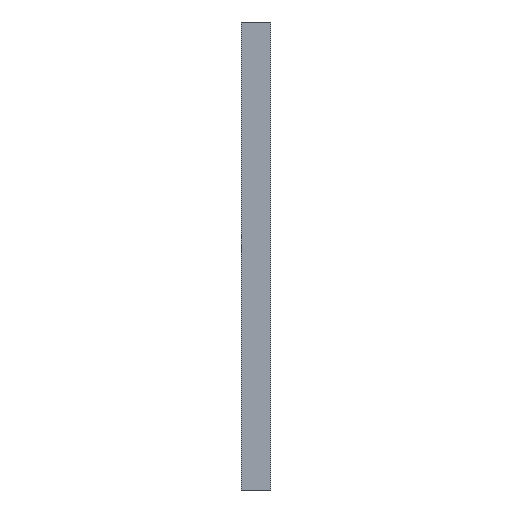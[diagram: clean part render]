
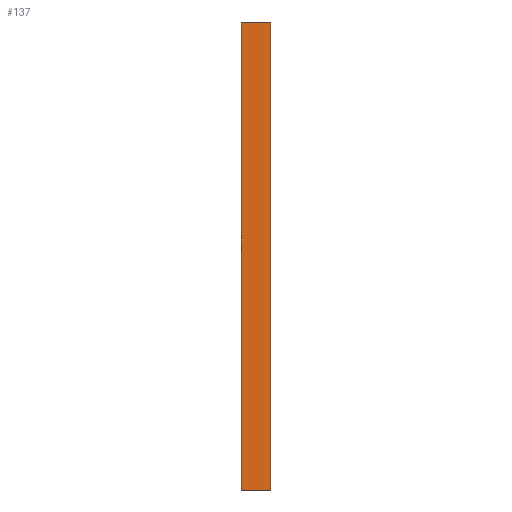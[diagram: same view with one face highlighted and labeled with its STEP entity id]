
A CAD part, front view. The second image highlights one B-rep face of the part: STEP entity #137.
In plain terms, the highlighted planar face has unit normal (0, -1, 0).
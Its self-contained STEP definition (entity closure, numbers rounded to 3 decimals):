
#21 = EDGE_CURVE('',#22,#24,#26,.T.);
#22 = VERTEX_POINT('',#23);
#23 = CARTESIAN_POINT('',(-57.5,-34.,55.));
#24 = VERTEX_POINT('',#25);
#25 = CARTESIAN_POINT('',(-56.,-34.,55.));
#26 = SURFACE_CURVE('',#27,(#31,#43),.PCURVE_S1.);
#27 = LINE('',#28,#29);
#28 = CARTESIAN_POINT('',(-57.5,-34.,55.));
#29 = VECTOR('',#30,1.);
#30 = DIRECTION('',(1.,0.,0.));
#31 = PCURVE('',#32,#37);
#32 = PLANE('',#33);
#33 = AXIS2_PLACEMENT_3D('',#34,#35,#36);
#34 = CARTESIAN_POINT('',(-57.5,-34.,55.));
#35 = DIRECTION('',(0.,0.,-1.));
#36 = DIRECTION('',(1.,0.,0.));
#37 = DEFINITIONAL_REPRESENTATION('',(#38),#42);
#38 = LINE('',#39,#40);
#39 = CARTESIAN_POINT('',(0.,0.));
#40 = VECTOR('',#41,1.);
#41 = DIRECTION('',(1.,0.));
#42 = ( GEOMETRIC_REPRESENTATION_CONTEXT(2) 
PARAMETRIC_REPRESENTATION_CONTEXT() REPRESENTATION_CONTEXT('2D SPACE',''
  ) );
#43 = PCURVE('',#44,#49);
#44 = PLANE('',#45);
#45 = AXIS2_PLACEMENT_3D('',#46,#47,#48);
#46 = CARTESIAN_POINT('',(-57.5,-34.,55.));
#47 = DIRECTION('',(0.,1.,0.));
#48 = DIRECTION('',(1.,0.,0.));
#49 = DEFINITIONAL_REPRESENTATION('',(#50),#54);
#50 = LINE('',#51,#52);
#51 = CARTESIAN_POINT('',(0.,0.));
#52 = VECTOR('',#53,1.);
#53 = DIRECTION('',(1.,0.));
#54 = ( GEOMETRIC_REPRESENTATION_CONTEXT(2) 
PARAMETRIC_REPRESENTATION_CONTEXT() REPRESENTATION_CONTEXT('2D SPACE',''
  ) );
#72 = PLANE('',#73);
#73 = AXIS2_PLACEMENT_3D('',#74,#75,#76);
#74 = CARTESIAN_POINT('',(-57.5,-34.,55.));
#75 = DIRECTION('',(1.,0.,0.));
#76 = DIRECTION('',(0.,0.,-1.));
#126 = PLANE('',#127);
#127 = AXIS2_PLACEMENT_3D('',#128,#129,#130);
#128 = CARTESIAN_POINT('',(-56.,-34.,55.));
#129 = DIRECTION('',(1.,0.,0.));
#130 = DIRECTION('',(0.,0.,-1.));
#137 = ADVANCED_FACE('',(#138),#44,.F.);
#138 = FACE_BOUND('',#139,.F.);
#139 = EDGE_LOOP('',(#140,#163,#164,#187));
#140 = ORIENTED_EDGE('',*,*,#141,.F.);
#141 = EDGE_CURVE('',#22,#142,#144,.T.);
#142 = VERTEX_POINT('',#143);
#143 = CARTESIAN_POINT('',(-57.5,-34.,31.));
#144 = SURFACE_CURVE('',#145,(#149,#156),.PCURVE_S1.);
#145 = LINE('',#146,#147);
#146 = CARTESIAN_POINT('',(-57.5,-34.,55.));
#147 = VECTOR('',#148,1.);
#148 = DIRECTION('',(0.,0.,-1.));
#149 = PCURVE('',#44,#150);
#150 = DEFINITIONAL_REPRESENTATION('',(#151),#155);
#151 = LINE('',#152,#153);
#152 = CARTESIAN_POINT('',(0.,0.));
#153 = VECTOR('',#154,1.);
#154 = DIRECTION('',(0.,1.));
#155 = ( GEOMETRIC_REPRESENTATION_CONTEXT(2) 
PARAMETRIC_REPRESENTATION_CONTEXT() REPRESENTATION_CONTEXT('2D SPACE',''
  ) );
#156 = PCURVE('',#72,#157);
#157 = DEFINITIONAL_REPRESENTATION('',(#158),#162);
#158 = LINE('',#159,#160);
#159 = CARTESIAN_POINT('',(0.,0.));
#160 = VECTOR('',#161,1.);
#161 = DIRECTION('',(1.,0.));
#162 = ( GEOMETRIC_REPRESENTATION_CONTEXT(2) 
PARAMETRIC_REPRESENTATION_CONTEXT() REPRESENTATION_CONTEXT('2D SPACE',''
  ) );
#163 = ORIENTED_EDGE('',*,*,#21,.T.);
#164 = ORIENTED_EDGE('',*,*,#165,.T.);
#165 = EDGE_CURVE('',#24,#166,#168,.T.);
#166 = VERTEX_POINT('',#167);
#167 = CARTESIAN_POINT('',(-56.,-34.,31.));
#168 = SURFACE_CURVE('',#169,(#173,#180),.PCURVE_S1.);
#169 = LINE('',#170,#171);
#170 = CARTESIAN_POINT('',(-56.,-34.,55.));
#171 = VECTOR('',#172,1.);
#172 = DIRECTION('',(0.,0.,-1.));
#173 = PCURVE('',#44,#174);
#174 = DEFINITIONAL_REPRESENTATION('',(#175),#179);
#175 = LINE('',#176,#177);
#176 = CARTESIAN_POINT('',(1.5,0.));
#177 = VECTOR('',#178,1.);
#178 = DIRECTION('',(0.,1.));
#179 = ( GEOMETRIC_REPRESENTATION_CONTEXT(2) 
PARAMETRIC_REPRESENTATION_CONTEXT() REPRESENTATION_CONTEXT('2D SPACE',''
  ) );
#180 = PCURVE('',#126,#181);
#181 = DEFINITIONAL_REPRESENTATION('',(#182),#186);
#182 = LINE('',#183,#184);
#183 = CARTESIAN_POINT('',(0.,0.));
#184 = VECTOR('',#185,1.);
#185 = DIRECTION('',(1.,0.));
#186 = ( GEOMETRIC_REPRESENTATION_CONTEXT(2) 
PARAMETRIC_REPRESENTATION_CONTEXT() REPRESENTATION_CONTEXT('2D SPACE',''
  ) );
#187 = ORIENTED_EDGE('',*,*,#188,.F.);
#188 = EDGE_CURVE('',#142,#166,#189,.T.);
#189 = SURFACE_CURVE('',#190,(#194,#201),.PCURVE_S1.);
#190 = LINE('',#191,#192);
#191 = CARTESIAN_POINT('',(-57.5,-34.,31.));
#192 = VECTOR('',#193,1.);
#193 = DIRECTION('',(1.,0.,0.));
#194 = PCURVE('',#44,#195);
#195 = DEFINITIONAL_REPRESENTATION('',(#196),#200);
#196 = LINE('',#197,#198);
#197 = CARTESIAN_POINT('',(0.,24.));
#198 = VECTOR('',#199,1.);
#199 = DIRECTION('',(1.,0.));
#200 = ( GEOMETRIC_REPRESENTATION_CONTEXT(2) 
PARAMETRIC_REPRESENTATION_CONTEXT() REPRESENTATION_CONTEXT('2D SPACE',''
  ) );
#201 = PCURVE('',#202,#207);
#202 = PLANE('',#203);
#203 = AXIS2_PLACEMENT_3D('',#204,#205,#206);
#204 = CARTESIAN_POINT('',(-57.5,-34.,31.));
#205 = DIRECTION('',(0.,0.,-1.));
#206 = DIRECTION('',(1.,0.,0.));
#207 = DEFINITIONAL_REPRESENTATION('',(#208),#212);
#208 = LINE('',#209,#210);
#209 = CARTESIAN_POINT('',(0.,0.));
#210 = VECTOR('',#211,1.);
#211 = DIRECTION('',(1.,0.));
#212 = ( GEOMETRIC_REPRESENTATION_CONTEXT(2) 
PARAMETRIC_REPRESENTATION_CONTEXT() REPRESENTATION_CONTEXT('2D SPACE',''
  ) );
